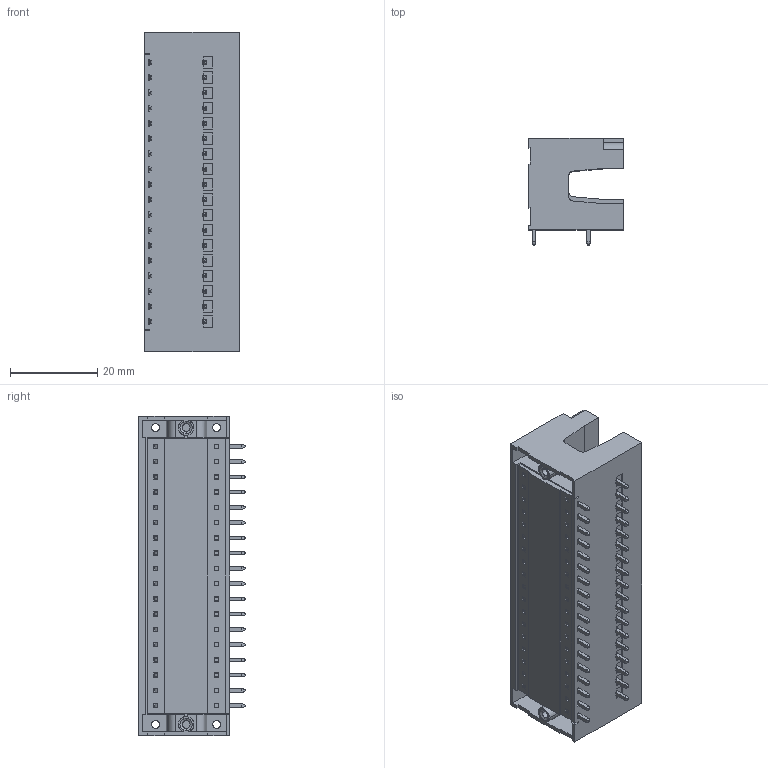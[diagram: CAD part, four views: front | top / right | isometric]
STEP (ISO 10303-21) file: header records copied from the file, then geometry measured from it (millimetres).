
FILE_DESCRIPTION (( 'STEP AP214' ), '1' );
FILE_NAME ('110-P-215-36.STEP', '2016-12-14T18:51:00', ( '' ), ( '' ), 'SwSTEP 2.0', 'SolidWorks 2016', '' );
FILE_SCHEMA (( 'AUTOMOTIVE_DESIGN' ));
Length unit declared in the file: millimetre
Products named in the file (1): 110-P-215-36
Bounding box: 21.7 x 24.5 x 73.3 mm (x, y, z)
Volume: 20630.3 mm3; surface area: 18766.1 mm2
Topology: 1 solids, 5 shells, 3452 faces, 9144 edges, 5734 vertices
Faces by surface type: plane 2570, cylinder 556, cone 310, bspline 16
Entity records: 111479 total; most frequent: CARTESIAN_POINT 28264, ORIENTED_EDGE 18288, DIRECTION 15306, EDGE_CURVE 9144, VECTOR 7288, LINE 7288, VERTEX_POINT 5734, AXIS2_PLACEMENT_3D 4009
